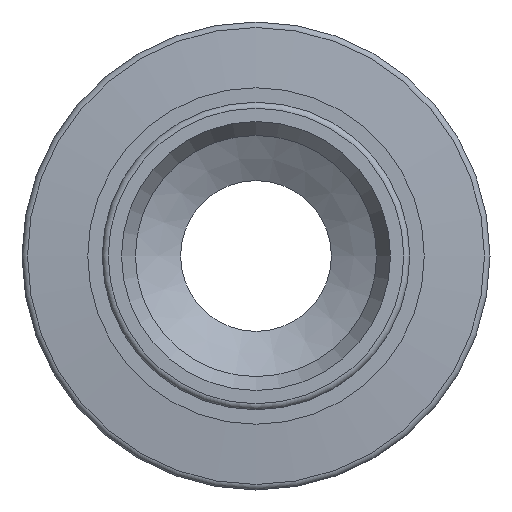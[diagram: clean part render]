
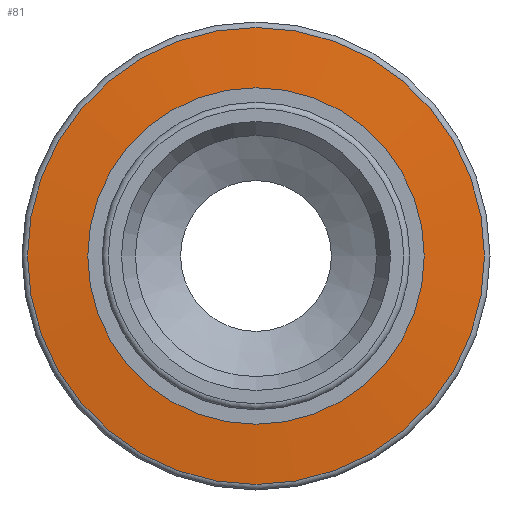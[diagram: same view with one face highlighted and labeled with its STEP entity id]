
A CAD part, front view. The second image highlights one B-rep face of the part: STEP entity #81.
In plain terms, the highlighted conical face has half-angle 85 degrees and reference radius 16.003 mm.
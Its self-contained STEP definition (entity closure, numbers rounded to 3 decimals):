
#81=ADVANCED_FACE('',(#465,#467),#469,.T.);
#465=FACE_OUTER_BOUND('',#466,.T.);
#466=EDGE_LOOP('',(#995));
#467=FACE_BOUND('',#468,.T.);
#468=EDGE_LOOP('',(#996,#997));
#469=CONICAL_SURFACE('',#470,16.003,1.484);
#470=AXIS2_PLACEMENT_3D('',#471,#472,#473);
#471=CARTESIAN_POINT('',(0.,-35.697,0.));
#472=DIRECTION('',(0.,1.,0.));
#473=DIRECTION('',(0.,0.,-1.));
#995=ORIENTED_EDGE('',*,*,#1171,.F.);
#996=ORIENTED_EDGE('',*,*,#1172,.T.);
#997=ORIENTED_EDGE('',*,*,#1173,.T.);
#1171=EDGE_CURVE('',#1331,#1331,#1332,.F.);
#1172=EDGE_CURVE('',#1333,#1334,#1335,.F.);
#1173=EDGE_CURVE('',#1334,#1333,#1336,.F.);
#1331=VERTEX_POINT('',#1718);
#1332=CIRCLE('',#1719,18.944);
#1333=VERTEX_POINT('',#1723);
#1334=VERTEX_POINT('',#1724);
#1335=CIRCLE('',#1725,13.063);
#1336=CIRCLE('',#1729,13.063);
#1718=CARTESIAN_POINT('',(0.,-35.44,18.944));
#1719=AXIS2_PLACEMENT_3D('',#1720,#1721,#1722);
#1720=CARTESIAN_POINT('',(0.,-35.44,0.));
#1721=DIRECTION('',(0.,-1.,0.));
#1722=DIRECTION('',(0.,0.,1.));
#1723=CARTESIAN_POINT('',(0.,-35.954,13.063));
#1724=CARTESIAN_POINT('',(-13.063,-35.954,0.));
#1725=AXIS2_PLACEMENT_3D('',#1726,#1727,#1728);
#1726=CARTESIAN_POINT('',(0.,-35.954,0.));
#1727=DIRECTION('',(0.,-1.,0.));
#1728=DIRECTION('',(-1.,0.,0.));
#1729=AXIS2_PLACEMENT_3D('',#1730,#1731,#1732);
#1730=CARTESIAN_POINT('',(0.,-35.954,0.));
#1731=DIRECTION('',(0.,-1.,0.));
#1732=DIRECTION('',(0.,0.,1.));
